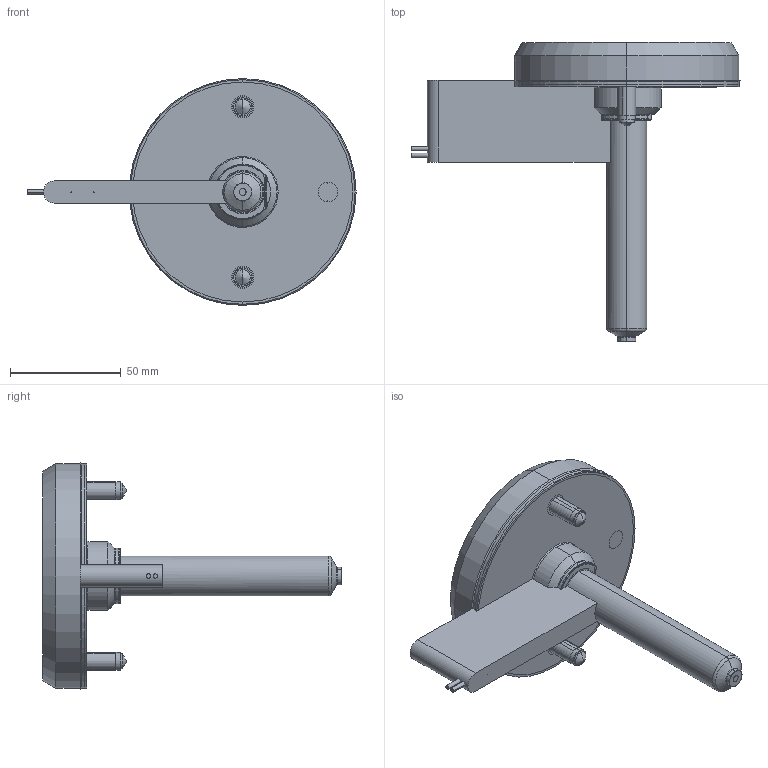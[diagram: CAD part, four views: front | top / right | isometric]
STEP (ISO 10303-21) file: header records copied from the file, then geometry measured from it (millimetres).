
FILE_DESCRIPTION (( 'STEP AP214' ), '1' );
FILE_NAME ('SOHSB4100-SOSRT401.STEP', '2024-11-29T06:23:35', ( '' ), ( '' ), 'SwSTEP 2.0', 'SolidWorks 2022', '' );
FILE_SCHEMA (( 'AUTOMOTIVE_DESIGN' ));
Length unit declared in the file: millimetre
Products named in the file (9): socket head cap screw_iso_ISO 4762 M8 x 25 - 25N; EcoONE-HSB04-00002(A)_SOHSBLR04; EcoONE-HSB04-04005(A)_SOTC10200-J; SOHSB4100-SOSRT401; EcoONE-HSB04-04003(A)_SOHSBNB4100; EcoONE-HSB04-04004(A)_SONH10097; EcoONE-HSB04-Open Gate Sprue Tip_SOSRT0401; EcoONE-HSB04-04006(A)_SONHC04; EcoONE-HSB04-04 Open Gate Cut-out Details_Sprue Gate or Full Body Gate
Assembly tree (11 placements, depth 2):
  SOHSB4100-SOSRT401
    EcoONE-HSB04-04003(A)_SOHSBNB4100
    EcoONE-HSB04-04004(A)_SONH10097
    EcoONE-HSB04-04005(A)_SOTC10200-J
    EcoONE-HSB04-04006(A)_SONHC04  x2
    EcoONE-HSB04-00002(A)_SOHSBLR04
    socket head cap screw_iso_ISO 4762 M8 x 25 - 25N  x3
    EcoONE-HSB04-04 Open Gate Cut-out Details_Sprue Gate or Full Body Gate
    EcoONE-HSB04-Open Gate Sprue Tip_SOSRT0401
Bounding box: 148.2 x 135 x 102.4 mm (x, y, z)
Volume: 241227.1 mm3; surface area: 76489.4 mm2
Topology: 11 solids, 11 shells, 524 faces, 1302 edges, 811 vertices
Faces by surface type: cylinder 158, plane 152, bspline 87, cone 85, torus 34, sphere 8
Entity records: 24526 total; most frequent: CARTESIAN_POINT 13441, ORIENTED_EDGE 2264, DIRECTION 1976, EDGE_CURVE 1132, AXIS2_PLACEMENT_3D 798, VERTEX_POINT 715, EDGE_LOOP 493, ADVANCED_FACE 454
